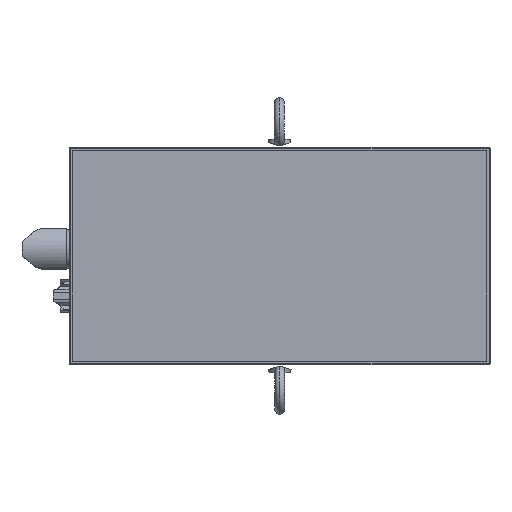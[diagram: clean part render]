
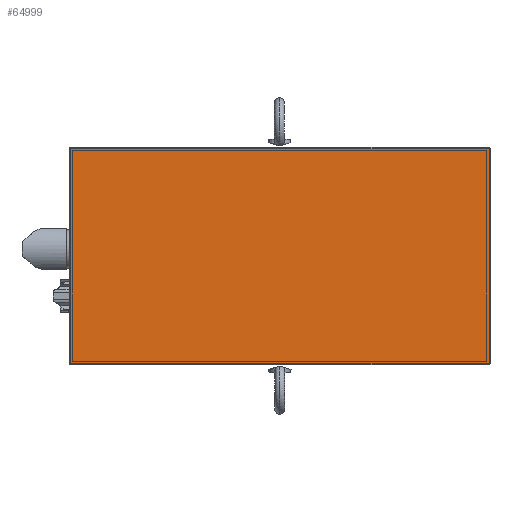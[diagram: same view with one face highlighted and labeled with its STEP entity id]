
A CAD part, top view. The second image highlights one B-rep face of the part: STEP entity #64999.
In plain terms, the highlighted planar face has unit normal (0, 0, 1).
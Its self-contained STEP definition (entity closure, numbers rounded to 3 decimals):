
#64960=CARTESIAN_POINT('',(-72.5,65.,568.));
#64961=DIRECTION('',(0.,1.,0.));
#64962=DIRECTION('',(0.,-0.,1.));
#64963=AXIS2_PLACEMENT_3D('',#64960,#64962,#64961);
#64964=PLANE('',#64963);
#64965=CARTESIAN_POINT('',(-206.5,-69.,568.));
#64966=VERTEX_POINT('',#64965);
#64967=CARTESIAN_POINT('',(61.5,-69.,568.));
#64968=VERTEX_POINT('',#64967);
#64969=CARTESIAN_POINT('',(-206.5,-69.,568.));
#64970=DIRECTION('',(1.,0.,0.));
#64971=VECTOR('',#64970,268.);
#64972=LINE('',#64969,#64971);
#64973=EDGE_CURVE('',#64966,#64968,#64972,.T.);
#64974=ORIENTED_EDGE('E8703',*,*,#64973,.T.);
#64975=CARTESIAN_POINT('',(61.5,69.,568.));
#64976=VERTEX_POINT('',#64975);
#64977=CARTESIAN_POINT('',(61.5,-69.,568.));
#64978=DIRECTION('',(0.,1.,0.));
#64979=VECTOR('',#64978,138.);
#64980=LINE('',#64977,#64979);
#64981=EDGE_CURVE('',#64968,#64976,#64980,.T.);
#64982=ORIENTED_EDGE('E8704',*,*,#64981,.T.);
#64983=CARTESIAN_POINT('',(-206.5,69.,568.));
#64984=VERTEX_POINT('',#64983);
#64985=CARTESIAN_POINT('',(61.5,69.,568.));
#64986=DIRECTION('',(-1.,0.,0.));
#64987=VECTOR('',#64986,268.);
#64988=LINE('',#64985,#64987);
#64989=EDGE_CURVE('',#64976,#64984,#64988,.T.);
#64990=ORIENTED_EDGE('E8705',*,*,#64989,.T.);
#64991=CARTESIAN_POINT('',(-206.5,69.,568.));
#64992=DIRECTION('',(0.,-1.,0.));
#64993=VECTOR('',#64992,138.);
#64994=LINE('',#64991,#64993);
#64995=EDGE_CURVE('',#64984,#64966,#64994,.T.);
#64996=ORIENTED_EDGE('E8706',*,*,#64995,.T.);
#64997=EDGE_LOOP('',(#64974,#64982,#64990,#64996));
#64998=FACE_OUTER_BOUND('',#64997,.T.);
#64999=ADVANCED_FACE('F3345',(#64998),#64964,.T.);
